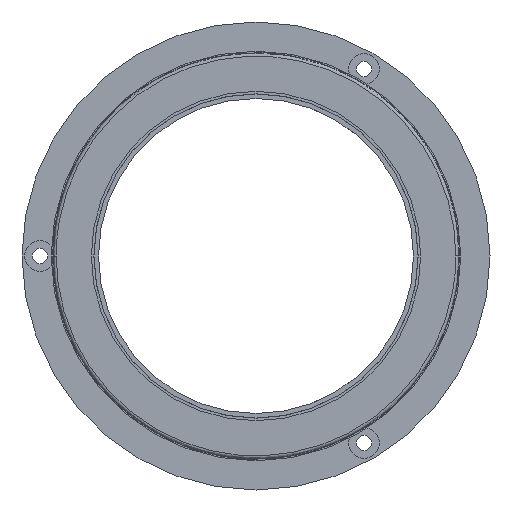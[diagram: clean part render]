
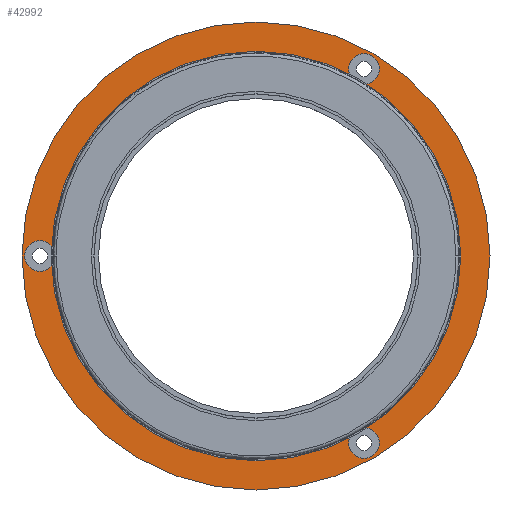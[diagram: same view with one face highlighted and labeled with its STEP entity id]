
A CAD part, left-side view. The second image highlights one B-rep face of the part: STEP entity #42992.
In plain terms, the highlighted planar face has unit normal (-1, 0, 0).
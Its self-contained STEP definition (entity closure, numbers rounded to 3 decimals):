
#942 = FACE_OUTER_BOUND ( 'NONE', #65693, .T. ) ;
#944 = CARTESIAN_POINT ( 'NONE',  ( 2.8, -13.7, -20.785 ) ) ;
#1387 = AXIS2_PLACEMENT_3D ( 'NONE', #71425, #71918, #65551 ) ;
#1469 = CARTESIAN_POINT ( 'NONE',  ( 2.8, 25.7, 0. ) ) ;
#2533 = DIRECTION ( 'NONE',  ( 0., 1., 0. ) ) ;
#3089 = EDGE_CURVE ( 'NONE', #28090, #27633, #32016, .T. ) ;
#4806 = DIRECTION ( 'NONE',  ( 1., 0., 0. ) ) ;
#7694 = EDGE_CURVE ( 'NONE', #24344, #47767, #31460, .T. ) ;
#7718 = CARTESIAN_POINT ( 'NONE',  ( 2.8, 22.3, 0. ) ) ;
#8493 = AXIS2_PLACEMENT_3D ( 'NONE', #18313, #40773, #29567 ) ;
#11400 = CARTESIAN_POINT ( 'NONE',  ( 2.8, -12., 20.785 ) ) ;
#11426 = FACE_BOUND ( 'NONE', #31451, .T. ) ;
#15843 = CARTESIAN_POINT ( 'NONE',  ( 2.8, -10.3, 20.785 ) ) ;
#16678 = DIRECTION ( 'NONE',  ( 0., 1., 0. ) ) ;
#16694 = EDGE_CURVE ( 'NONE', #35011, #31284, #22380, .T. ) ;
#17078 = AXIS2_PLACEMENT_3D ( 'NONE', #71338, #49116, #21284 ) ;
#18064 = EDGE_CURVE ( 'NONE', #71040, #47569, #59790, .T. ) ;
#18313 = CARTESIAN_POINT ( 'NONE',  ( 2.8, 0., 0. ) ) ;
#18738 = DIRECTION ( 'NONE',  ( -1., 0., 0. ) ) ;
#19780 = CIRCLE ( 'NONE', #38445, 1.7 ) ;
#20667 = AXIS2_PLACEMENT_3D ( 'NONE', #35692, #30351, #2533 ) ;
#21284 = DIRECTION ( 'NONE',  ( 0., 1., 0. ) ) ;
#21892 = CARTESIAN_POINT ( 'NONE',  ( 2.8, -13.7, 20.785 ) ) ;
#22111 = DIRECTION ( 'NONE',  ( 0., -1., 0. ) ) ;
#22380 = CIRCLE ( 'NONE', #62086, 1.7 ) ;
#22586 = CARTESIAN_POINT ( 'NONE',  ( 2.8, -12., -20.785 ) ) ;
#23022 = CIRCLE ( 'NONE', #20667, 20. ) ;
#24344 = VERTEX_POINT ( 'NONE', #53572 ) ;
#25577 = EDGE_CURVE ( 'NONE', #47569, #71040, #40630, .T. ) ;
#26128 = VERTEX_POINT ( 'NONE', #47490 ) ;
#27022 = CARTESIAN_POINT ( 'NONE',  ( 2.8, -12., -20.785 ) ) ;
#27532 = DIRECTION ( 'NONE',  ( 0., -1., 0. ) ) ;
#27633 = VERTEX_POINT ( 'NONE', #48065 ) ;
#28090 = VERTEX_POINT ( 'NONE', #33155 ) ;
#28254 = CIRCLE ( 'NONE', #53370, 1.7 ) ;
#28483 = DIRECTION ( 'NONE',  ( 1., 0., 0. ) ) ;
#28867 = FACE_BOUND ( 'NONE', #37707, .T. ) ;
#29248 = EDGE_CURVE ( 'NONE', #49812, #26128, #40281, .T. ) ;
#29567 = DIRECTION ( 'NONE',  ( 0., 1., 0. ) ) ;
#29592 = AXIS2_PLACEMENT_3D ( 'NONE', #22586, #39185, #51123 ) ;
#29638 = AXIS2_PLACEMENT_3D ( 'NONE', #69277, #18738, #63898 ) ;
#30329 = ORIENTED_EDGE ( 'NONE', *, *, #40224, .T. ) ;
#30351 = DIRECTION ( 'NONE',  ( 1., 0., 0. ) ) ;
#31104 = EDGE_LOOP ( 'NONE', ( #63412, #58492 ) ) ;
#31284 = VERTEX_POINT ( 'NONE', #7718 ) ;
#31451 = EDGE_LOOP ( 'NONE', ( #30329, #58836 ) ) ;
#31460 = CIRCLE ( 'NONE', #29592, 1.7 ) ;
#32016 = CIRCLE ( 'NONE', #32157, 26. ) ;
#32157 = AXIS2_PLACEMENT_3D ( 'NONE', #55971, #45239, #16678 ) ;
#33155 = CARTESIAN_POINT ( 'NONE',  ( 2.8, -26., 0. ) ) ;
#35011 = VERTEX_POINT ( 'NONE', #1469 ) ;
#35692 = CARTESIAN_POINT ( 'NONE',  ( 2.8, 0., 0. ) ) ;
#36080 = PLANE ( 'NONE',  #29638 ) ;
#36952 = ORIENTED_EDGE ( 'NONE', *, *, #60599, .T. ) ;
#37421 = EDGE_CURVE ( 'NONE', #47767, #24344, #19780, .T. ) ;
#37707 = EDGE_LOOP ( 'NONE', ( #53502, #68348 ) ) ;
#38436 = CARTESIAN_POINT ( 'NONE',  ( 2.8, -20., 0. ) ) ;
#38445 = AXIS2_PLACEMENT_3D ( 'NONE', #27022, #4806, #22111 ) ;
#39185 = DIRECTION ( 'NONE',  ( 1., 0., 0. ) ) ;
#40224 = EDGE_CURVE ( 'NONE', #26128, #49812, #23022, .T. ) ;
#40281 = CIRCLE ( 'NONE', #17078, 20. ) ;
#40630 = CIRCLE ( 'NONE', #41792, 1.7 ) ;
#40773 = DIRECTION ( 'NONE',  ( -1., 0., 0. ) ) ;
#41792 = AXIS2_PLACEMENT_3D ( 'NONE', #11400, #28483, #50223 ) ;
#42097 = ORIENTED_EDGE ( 'NONE', *, *, #3089, .T. ) ;
#42992 = ADVANCED_FACE ( 'NONE', ( #942, #11426, #28867, #71684, #55096 ), #36080, .T. ) ;
#43804 = ORIENTED_EDGE ( 'NONE', *, *, #56726, .T. ) ;
#45239 = DIRECTION ( 'NONE',  ( -1., 0., 0. ) ) ;
#47490 = CARTESIAN_POINT ( 'NONE',  ( 2.8, 20., 0. ) ) ;
#47569 = VERTEX_POINT ( 'NONE', #15843 ) ;
#47767 = VERTEX_POINT ( 'NONE', #944 ) ;
#48065 = CARTESIAN_POINT ( 'NONE',  ( 2.8, 26., 0. ) ) ;
#49116 = DIRECTION ( 'NONE',  ( 1., 0., 0. ) ) ;
#49812 = VERTEX_POINT ( 'NONE', #38436 ) ;
#50223 = DIRECTION ( 'NONE',  ( 0., -1., 0. ) ) ;
#51123 = DIRECTION ( 'NONE',  ( 0., -1., 0. ) ) ;
#53245 = EDGE_LOOP ( 'NONE', ( #43804, #55488 ) ) ;
#53370 = AXIS2_PLACEMENT_3D ( 'NONE', #58862, #64214, #69347 ) ;
#53502 = ORIENTED_EDGE ( 'NONE', *, *, #18064, .T. ) ;
#53572 = CARTESIAN_POINT ( 'NONE',  ( 2.8, -10.3, -20.785 ) ) ;
#55096 = FACE_BOUND ( 'NONE', #53245, .T. ) ;
#55488 = ORIENTED_EDGE ( 'NONE', *, *, #16694, .T. ) ;
#55577 = CARTESIAN_POINT ( 'NONE',  ( 2.8, 24., 0. ) ) ;
#55971 = CARTESIAN_POINT ( 'NONE',  ( 2.8, 0., 0. ) ) ;
#56270 = DIRECTION ( 'NONE',  ( 1., 0., 0. ) ) ;
#56726 = EDGE_CURVE ( 'NONE', #31284, #35011, #28254, .T. ) ;
#58492 = ORIENTED_EDGE ( 'NONE', *, *, #7694, .T. ) ;
#58836 = ORIENTED_EDGE ( 'NONE', *, *, #29248, .T. ) ;
#58862 = CARTESIAN_POINT ( 'NONE',  ( 2.8, 24., 0. ) ) ;
#59790 = CIRCLE ( 'NONE', #1387, 1.7 ) ;
#60599 = EDGE_CURVE ( 'NONE', #27633, #28090, #68016, .T. ) ;
#62086 = AXIS2_PLACEMENT_3D ( 'NONE', #55577, #56270, #27532 ) ;
#63412 = ORIENTED_EDGE ( 'NONE', *, *, #37421, .T. ) ;
#63898 = DIRECTION ( 'NONE',  ( 0., -1., 0. ) ) ;
#64214 = DIRECTION ( 'NONE',  ( 1., 0., 0. ) ) ;
#65551 = DIRECTION ( 'NONE',  ( 0., -1., 0. ) ) ;
#65693 = EDGE_LOOP ( 'NONE', ( #36952, #42097 ) ) ;
#68016 = CIRCLE ( 'NONE', #8493, 26. ) ;
#68348 = ORIENTED_EDGE ( 'NONE', *, *, #25577, .T. ) ;
#69277 = CARTESIAN_POINT ( 'NONE',  ( 2.8, 20., 0. ) ) ;
#69347 = DIRECTION ( 'NONE',  ( 0., -1., 0. ) ) ;
#71040 = VERTEX_POINT ( 'NONE', #21892 ) ;
#71338 = CARTESIAN_POINT ( 'NONE',  ( 2.8, 0., 0. ) ) ;
#71425 = CARTESIAN_POINT ( 'NONE',  ( 2.8, -12., 20.785 ) ) ;
#71684 = FACE_BOUND ( 'NONE', #31104, .T. ) ;
#71918 = DIRECTION ( 'NONE',  ( 1., 0., 0. ) ) ;
